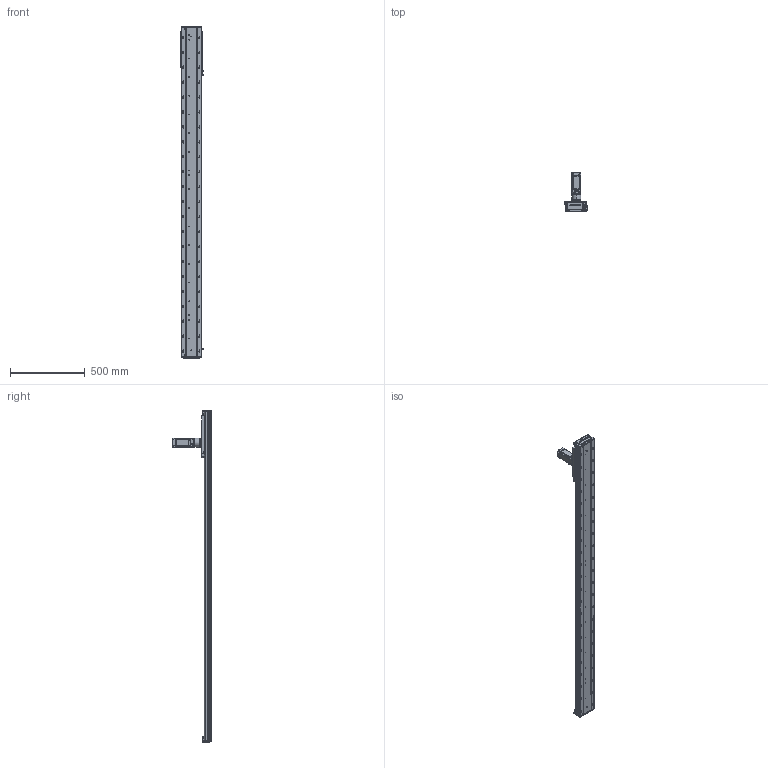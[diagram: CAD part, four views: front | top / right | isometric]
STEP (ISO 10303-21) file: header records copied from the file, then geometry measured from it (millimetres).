
FILE_DESCRIPTION (( 'STEP AP203' ), '1' );
FILE_NAME ('RY140-C-250-UK.SLDASM_1850.step', '2022-03-12T01:59:48', ( '' ), ( '' ), 'SwSTEP 2.0', 'SolidWorks 2016', '' );
FILE_SCHEMA (( 'CONFIG_CONTROL_DESIGN' ));
Length unit declared in the file: millimetre
Products named in the file (12): 15; RY140-C-250-UK.SLDASM_1850; RY140-喘沭賑輸; 覜茼ん672; 140蚥薯蝶輸; RY140-喘謫萇儂覃誹啣; 60ZDF珨撰俋倛芞T1 200W M4; RY140-喘沭裔啣; 絳寢賑輸EGH15; RY140-絳寢EGH15-300-MK_1850; RY140-300齿条模组型材底座_1850; RY120外置感应片(140共用）
Assembly tree (21 placements, depth 2):
  RY140-C-250-UK.SLDASM_1850
    RY140-300齿条模组型材底座_1850
    RY140-絳寢EGH15-300-MK_1850  x2
    絳寢賑輸EGH15  x6
    RY140-喘沭裔啣  x2
    覜茼ん672  x3
    RY140-喘沭賑輸
    RY120外置感应片(140共用）
    RY140-喘謫萇儂覃誹啣
    140蚥薯蝶輸  x2
    60ZDF珨撰俋倛芞T1 200W M4
    15
Bounding box: 153.7 x 263.5 x 2222 mm (x, y, z)
Volume: 7119515.4 mm3; surface area: 1939842.6 mm2
Topology: 21 solids, 21 shells, 3876 faces, 10408 edges, 6712 vertices
Faces by surface type: cylinder 1842, plane 1692, cone 296, bspline 46
Entity records: 90299 total; most frequent: CARTESIAN_POINT 20297, ORIENTED_EDGE 14318, DIRECTION 14255, EDGE_CURVE 7159, AXIS2_PLACEMENT_3D 5163, VERTEX_POINT 4689, LINE 3929, VECTOR 3929
